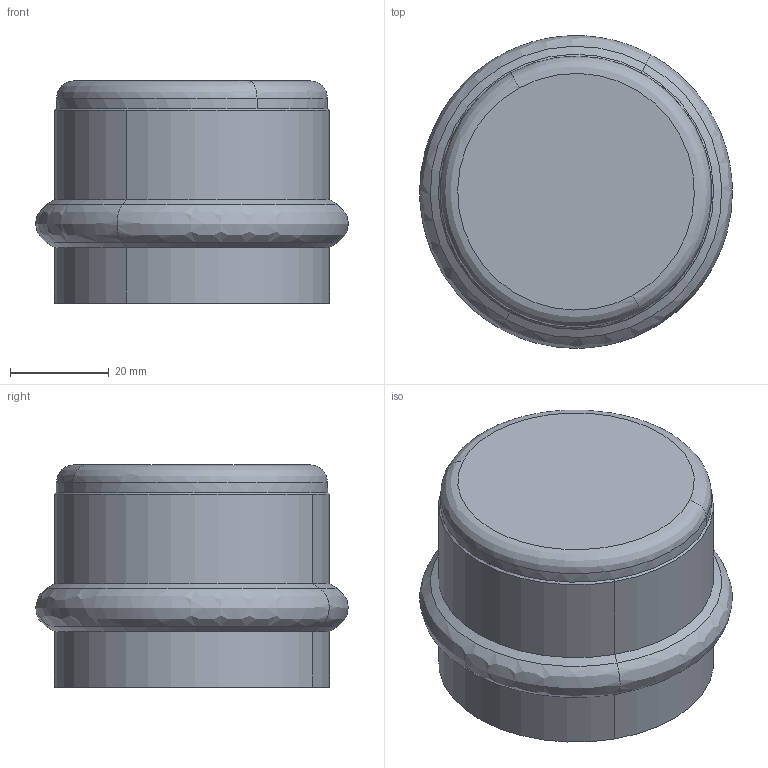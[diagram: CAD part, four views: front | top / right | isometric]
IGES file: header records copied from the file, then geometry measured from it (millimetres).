
Start section: 3D InterOp IGES (Version 26 1 0), Spatial Corp. Copyright (c) 1999-2007.
Global section: file name: pim0004613.igs; native system: Spatial Corp.; preprocessor: 3D InterOp ACIS/IGES; author: cad-pim; organization: TransMagic, Inc.; date: 20170510.084246; units: millimetre
Bounding box: 63.32 x 63.31 x 44.99 mm (x, y, z)
Volume: 34757.7 mm3; surface area: 19433.6 mm2
Topology: 1 solids, 1 shells, 21 faces, 42 edges, 24 vertices
Faces by surface type: bspline 21
